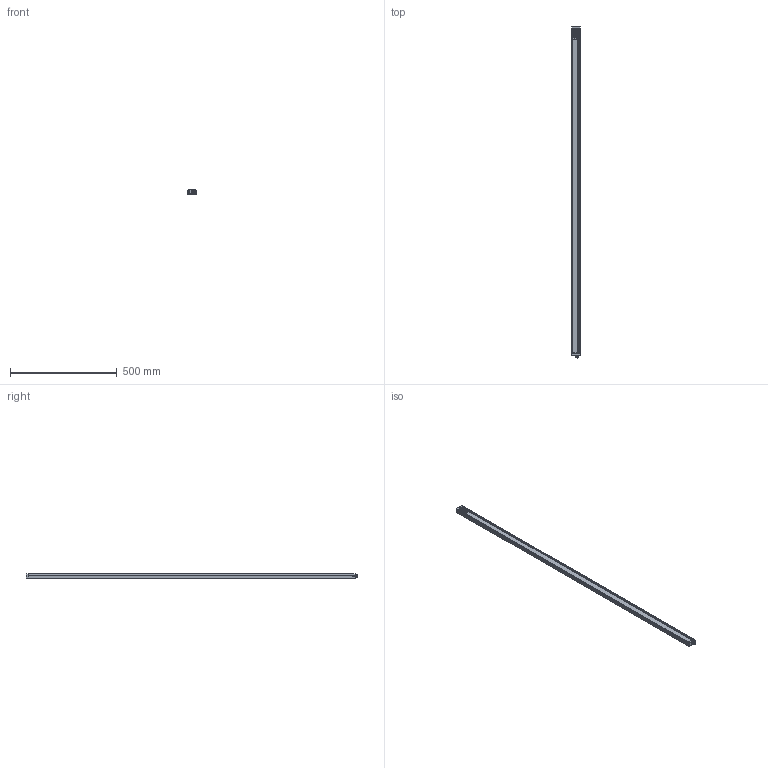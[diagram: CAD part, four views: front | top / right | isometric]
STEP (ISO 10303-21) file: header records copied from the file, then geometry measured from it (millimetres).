
FILE_DESCRIPTION(/* description */ (''),/* implementation_level */ '2;1');
FILE_NAME(/* name */ 'C:\Users\andre\SynologyDrive\Optoscan\Libreria Componenti\00 - Barriere\Barriera sorgente\Argo_1520_RX.stp',/* time_stamp */ '2021-04-22T12:02:12+02:00',/* author */ ('andre'),/* organization */ (''),/* preprocessor_version */ 'ST-DEVELOPER v18',/* originating_system */ 'Autodesk Inventor 2020',/* authorisation */ '');
FILE_SCHEMA (('AUTOMOTIVE_DESIGN { 1 0 10303 214 3 1 1 }'));
Length unit declared in the file: millimetre
Products named in the file (1): Argo_1520_RX
Bounding box: 40.5 x 1553.3 x 20.75 mm (x, y, z)
Volume: 307156.4 mm3; surface area: 405973 mm2
Topology: 1 solids, 1 shells, 692 faces, 1898 edges, 1217 vertices
Faces by surface type: plane 319, cylinder 195, bspline 94, torus 70, cone 8, sphere 6
Full cylindrical faces by diameter (mm): 1 x4, 2.459 x4, 2.5 x4, 3 x4, 3.5 x4, 5.5 x4, 8 x1, 10.5 x2, 11.75 x9, 15.7 x1, 17.5 x1
Entity records: 28165 total; most frequent: CARTESIAN_POINT 10195, ORIENTED_EDGE 3778, DIRECTION 3387, EDGE_CURVE 1889, VERTEX_POINT 1217, AXIS2_PLACEMENT_3D 1183, LINE 1021, VECTOR 1021
